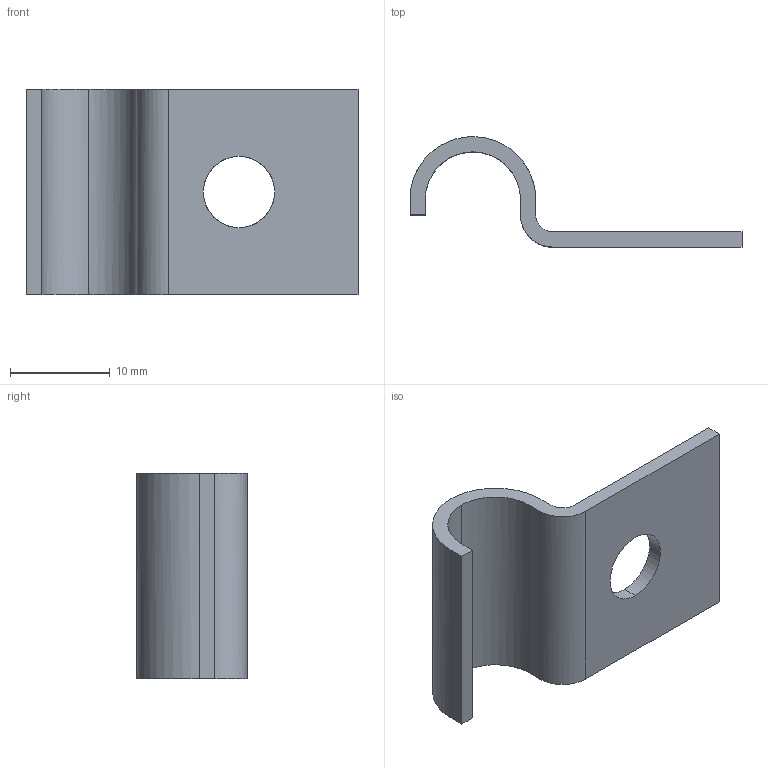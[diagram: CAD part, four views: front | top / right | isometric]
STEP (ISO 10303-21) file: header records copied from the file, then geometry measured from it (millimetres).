
FILE_DESCRIPTION(('TurboCAD Mac Pro'),'Build 980');
FILE_NAME('P2010.stp',' ',(''),(''),'ACIS Interop','IMSI','TurboCAD Mac Pro BY IMSI, INCORPORATED');
FILE_SCHEMA(('automotive_design'));
Length unit declared in the file: inch
Products named in the file (1): 1
Bounding box: 33.34 x 11.09 x 20.64 mm (x, y, z)
Volume: 1308.5 mm3; surface area: 1940.7 mm2
Topology: 1 solids, 1 shells, 20 faces, 54 edges, 36 vertices
Faces by surface type: bspline 10, plane 10
Entity records: 866 total; most frequent: CARTESIAN_POINT 241, ORIENTED_EDGE 108, DIRECTION 56, EDGE_CURVE 54, VERTEX_POINT 36, LINE 34, VECTOR 34, EDGE_LOOP 22
